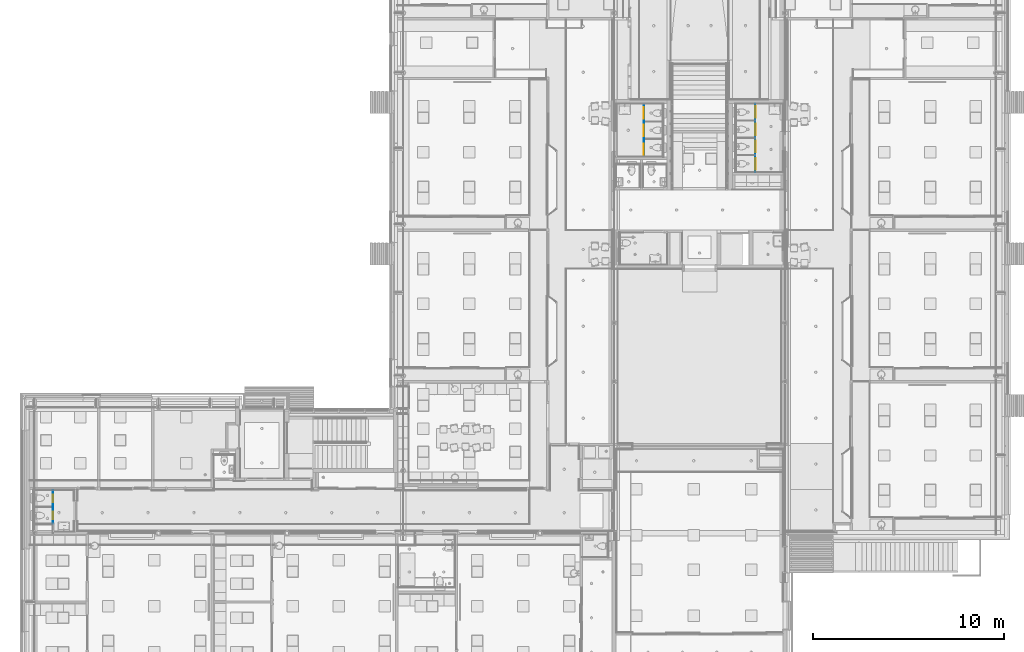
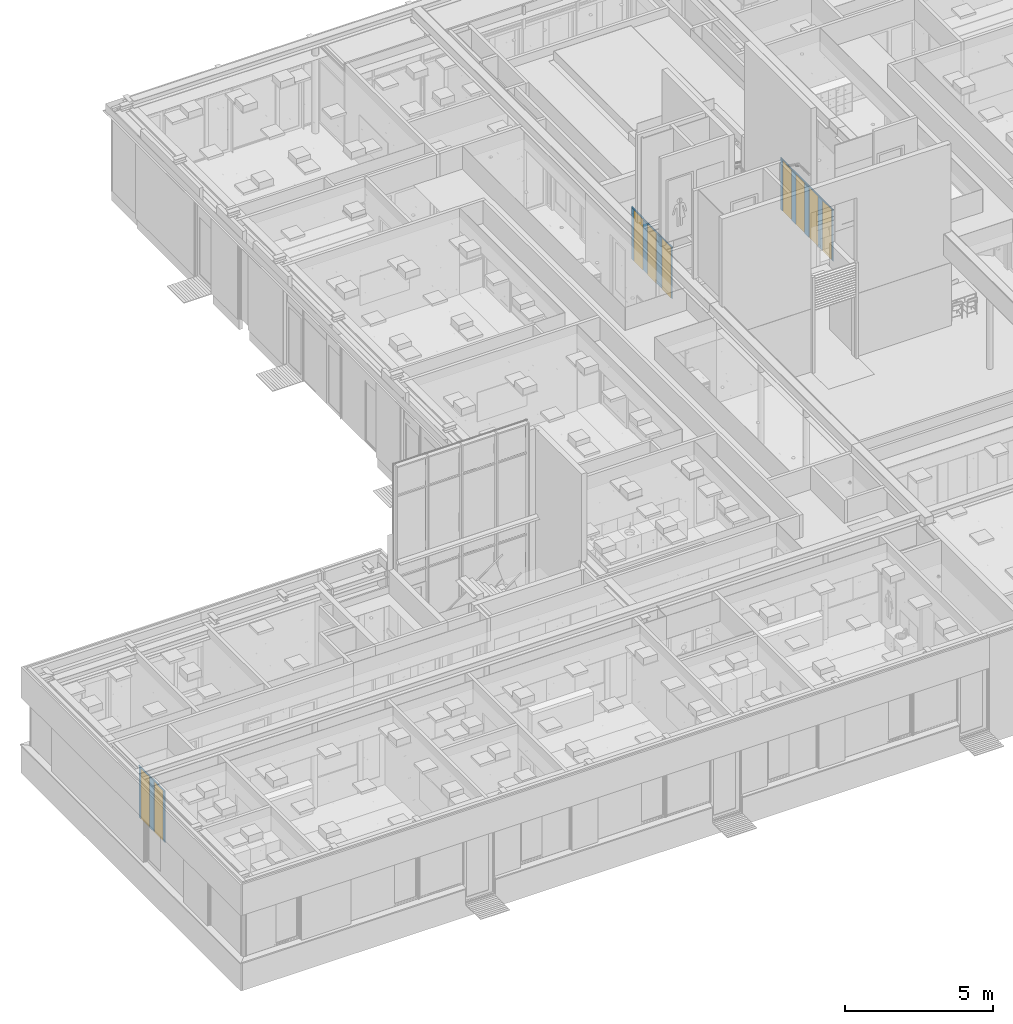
# One storey, part 89 of 347: 9 doors, 6 building element parts, 9 openings, 3 elements without a shape of their own.
"""IFC2X3 building model written with IfcOpenShell, lengths in millimetres."""

from ifc_helpers import new_model, entity, si_unit, converted_unit, derived_unit, money_unit, direction, frame, origin_with_axes, place, context, subcontext, project, spatial, faceted_brep, source, transform, mapped, material, type_object, type_shapes, element, fill, aggregate, save


model = new_model("IFC2X3")

# Units and contexts
model_context = context("Model", 3, precision=0.01, world=origin_with_axes(), true_north=direction((0.0, 1.0)))
plan_context = context("Plan", 3, precision=0.01, world=origin_with_axes(), true_north=direction((0.0, 1.0)))
body_context = subcontext(model_context, "Body", "Model", "MODEL_VIEW")
ifc_project = project(units=[si_unit("LENGTHUNIT", "METRE", prefix="MILLI"), si_unit("AREAUNIT", "SQUARE_METRE"), si_unit("VOLUMEUNIT", "CUBIC_METRE"), converted_unit("PLANEANGLEUNIT", "DEGREE", entity("IfcPlaneAngleMeasure", 0.0174532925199), si_unit("PLANEANGLEUNIT", "RADIAN"), dimensions=[0, 0, 0, 0, 0, 0, 0]), money_unit("EUR"), converted_unit("TIMEUNIT", "Year", entity("IfcTimeMeasure", 31556926.0), si_unit("TIMEUNIT", "SECOND"), dimensions=[0, 0, 1, 0, 0, 0, 0]), si_unit("MASSUNIT", "GRAM", prefix="KILO"), si_unit("THERMODYNAMICTEMPERATUREUNIT", "DEGREE_CELSIUS"), si_unit("LUMINOUSINTENSITYUNIT", "LUMEN"), si_unit("ENERGYUNIT", "JOULE", prefix="MEGA"), derived_unit("THERMALCONDUCTANCEUNIT", [(si_unit("POWERUNIT", "WATT"), 1), (si_unit("LENGTHUNIT", "METRE"), -1), (si_unit("THERMODYNAMICTEMPERATUREUNIT", "KELVIN"), -1)]), derived_unit("SPECIFICHEATCAPACITYUNIT", [(si_unit("ENERGYUNIT", "JOULE"), 1), (si_unit("MASSUNIT", "GRAM", prefix="KILO"), -1), (si_unit("THERMODYNAMICTEMPERATUREUNIT", "KELVIN"), -1)]), derived_unit("MASSDENSITYUNIT", [(si_unit("MASSUNIT", "GRAM", prefix="KILO"), 1), (si_unit("VOLUMEUNIT", "CUBIC_METRE"), -1)])], contexts=[model_context, plan_context])

# Site, building, storey
site_placement = place(None, origin_with_axes())
site = spatial("IfcSite", under=ifc_project, at=site_placement, Name="Site", CompositionType="ELEMENT")
building_placement = place(site_placement, origin_with_axes())
building = spatial("IfcBuilding", under=site, at=building_placement, Name="Naam gebouw", CompositionType="ELEMENT")
storey_placement = place(building_placement, origin_with_axes())
storey = spatial("IfcBuildingStorey", under=building, at=storey_placement, Name="begane grond", CompositionType="ELEMENT", Elevation=0.0)

# Door
door_style_1 = type_object("IfcDoorStyle", Name="D1 25", ConstructionType="NOTDEFINED", OperationType="SINGLE_SWING_RIGHT", ParameterTakesPrecedence=False, Sizeable=False)
shared_shape_1 = source(origin_with_axes(), body_context, "Body", "Brep", [
    faceted_brep([(300.0, 0.0, 0.0), (300.0, -13.0, 0.0), (-300.0, -13.0, 0.0), (-300.0, 0.0, 0.0), (300.0, 0.0, 2100.0), (300.0, -13.0, 2100.0), (-300.0, -13.0, 2100.0), (-300.0, 0.0, 2100.0)], [[[0, 1, 2, 3]], [[4, 5, 1, 0]], [[1, 5, 6, 2]], [[3, 2, 6, 7]], [[0, 3, 7, 4]], [[7, 6, 5, 4]]]),
])
type_shapes(door_style_1, [shared_shape_1])
wall_1_placement = place(storey_placement, frame((42985.0000873, 34568.9999523, 0.0), z_axis=(0.0, 0.0, 1.0), x_axis=(0.0, -1.0, 0.0)))
opening_1_placement = place(wall_1_placement, frame((1329.0, 0.0, 150.0), z_axis=(0.0, 0.0, 1.0), x_axis=(1.0, 0.0, 0.0)))
door_1_placement = place(opening_1_placement, frame((-300.0, 0.0, 0.0), z_axis=(0.0, 0.0, 1.0), x_axis=(1.0, 0.0, 0.0)))
door_1 = element("IfcDoor", 1, at=door_1_placement, inside=storey, type_object=door_style_1, Name="74_A.", ObjectType="DOOR", OverallHeight=2100.0, OverallWidth=600.0, context=body_context, shape_type="MappedRepresentation", body=[
    mapped(shared_shape_1, transform((300.0, 16.0, 0.0))),
])

opening_2_placement = place(wall_1_placement, frame((2229.0, 0.0, 150.0), z_axis=(0.0, 0.0, 1.0), x_axis=(1.0, 0.0, 0.0)))
door_2_placement = place(opening_2_placement, frame((-300.0, 0.0, 0.0), z_axis=(0.0, 0.0, 1.0), x_axis=(1.0, 0.0, 0.0)))
door_2 = element("IfcDoor", 2, at=door_2_placement, inside=storey, type_object=door_style_1, Name="74_A.", ObjectType="DOOR", OverallHeight=2100.0, OverallWidth=600.0, context=body_context, shape_type="MappedRepresentation", body=[
    mapped(shared_shape_1, transform((300.0, 16.0, 0.0))),
])

opening_4_placement = place(wall_1_placement, frame((3129.0, 0.0, 150.0), z_axis=(0.0, 0.0, 1.0), x_axis=(1.0, 0.0, 0.0)))
door_3_placement = place(opening_4_placement, frame((-300.0, 0.0, 0.0), z_axis=(0.0, 0.0, 1.0), x_axis=(1.0, 0.0, 0.0)))
door_3 = element("IfcDoor", 3, at=door_3_placement, inside=storey, type_object=door_style_1, Name="74_A.", ObjectType="DOOR", OverallHeight=2100.0, OverallWidth=600.0, context=body_context, shape_type="MappedRepresentation", body=[
    mapped(shared_shape_1, transform((300.0, 16.0, 0.0))),
])

wall_2_placement = place(storey_placement, frame((6260.00003006, 12621.0, 0.0), z_axis=(0.0, 0.0, 1.0), x_axis=(0.0, 1.0, 0.0)))
opening_5_placement = place(wall_2_placement, frame((428.999999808, 0.0, 150.0), z_axis=(0.0, 0.0, 1.0), x_axis=(1.0, 0.0, 0.0)))
door_4_placement = place(opening_5_placement, frame((300.0, 0.0, 0.0), z_axis=(0.0, 0.0, 1.0), x_axis=(-1.0, 0.0, 0.0)))
door_4 = element("IfcDoor", 4, at=door_4_placement, inside=storey, type_object=door_style_1, Name="74_A.", ObjectType="DOOR", OverallHeight=2100.0, OverallWidth=600.0, context=body_context, shape_type="MappedRepresentation", body=[
    mapped(shared_shape_1, transform((300.0, 16.0, 0.0))),
])

wall_3_placement = place(storey_placement, frame((37164.9999127, 34568.9999523, 0.0), z_axis=(0.0, 0.0, 1.0), x_axis=(0.0, -1.0, 0.0)))
opening_9_placement = place(wall_3_placement, frame((479.0, 0.0, 150.0), z_axis=(0.0, 0.0, 1.0), x_axis=(1.0, 0.0, 0.0)))
door_5_placement = place(opening_9_placement, frame((300.0, 0.0, 0.0), z_axis=(0.0, 0.0, 1.0), x_axis=(-1.0, 0.0, 0.0)))
door_5 = element("IfcDoor", 5, at=door_5_placement, inside=storey, type_object=door_style_1, Name="74_A.", ObjectType="DOOR", OverallHeight=2100.0, OverallWidth=600.0, context=body_context, shape_type="MappedRepresentation", body=[
    mapped(shared_shape_1, transform((300.0, 16.0, 0.0))),
])

door_style_2 = type_object("IfcDoorStyle", Name="D1 25", ConstructionType="NOTDEFINED", OperationType="SINGLE_SWING_LEFT", ParameterTakesPrecedence=False, Sizeable=False)
shared_shape_2 = source(origin_with_axes(), body_context, "Body", "Brep", [
    faceted_brep([(-300.0, 0.0, 0.0), (300.0, 0.0, 0.0), (300.0, -13.0, 0.0), (-300.0, -13.0, 0.0), (-300.0, 0.0, 2100.0), (300.0, 0.0, 2100.0), (300.0, -13.0, 2100.0), (-300.0, -13.0, 2100.0)], [[[0, 1, 2, 3]], [[0, 4, 5, 1]], [[1, 5, 6, 2]], [[3, 2, 6, 7]], [[4, 0, 3, 7]], [[5, 4, 7, 6]]]),
])
type_shapes(door_style_2, [shared_shape_2])
opening_3_placement = place(wall_1_placement, frame((429.0, 0.0, 150.0), z_axis=(0.0, 0.0, 1.0), x_axis=(1.0, 0.0, 0.0)))
door_6_placement = place(opening_3_placement, frame((-300.0, 0.0, 0.0), z_axis=(0.0, 0.0, 1.0), x_axis=(1.0, 0.0, 0.0)))
door_6 = element("IfcDoor", 6, at=door_6_placement, inside=storey, type_object=door_style_2, Name="74_A.", ObjectType="DOOR", OverallHeight=2100.0, OverallWidth=600.0, context=body_context, shape_type="MappedRepresentation", body=[
    mapped(shared_shape_2, transform((300.0, 16.0, 0.0))),
])

opening_6_placement = place(wall_2_placement, frame((1328.99999981, 0.0, 150.0), z_axis=(0.0, 0.0, 1.0), x_axis=(1.0, 0.0, 0.0)))
door_7_placement = place(opening_6_placement, frame((300.0, 0.0, 0.0), z_axis=(0.0, 0.0, 1.0), x_axis=(-1.0, 0.0, 0.0)))
door_7 = element("IfcDoor", 7, at=door_7_placement, inside=storey, type_object=door_style_2, Name="74_A.", ObjectType="DOOR", OverallHeight=2100.0, OverallWidth=600.0, context=body_context, shape_type="MappedRepresentation", body=[
    mapped(shared_shape_2, transform((300.0, 16.0, 0.0))),
])

opening_7_placement = place(wall_3_placement, frame((1379.0, 0.0, 150.0), z_axis=(0.0, 0.0, 1.0), x_axis=(1.0, 0.0, 0.0)))
door_8_placement = place(opening_7_placement, frame((300.0, 0.0, 0.0), z_axis=(0.0, 0.0, 1.0), x_axis=(-1.0, 0.0, 0.0)))
door_8 = element("IfcDoor", 8, at=door_8_placement, inside=storey, type_object=door_style_2, Name="74_A.", ObjectType="DOOR", OverallHeight=2100.0, OverallWidth=600.0, context=body_context, shape_type="MappedRepresentation", body=[
    mapped(shared_shape_2, transform((300.0, 16.0, 0.0))),
])

opening_8_placement = place(wall_3_placement, frame((2379.0, 0.0, 150.0), z_axis=(0.0, 0.0, 1.0), x_axis=(1.0, 0.0, 0.0)))
door_9_placement = place(opening_8_placement, frame((300.0, 0.0, 0.0), z_axis=(0.0, 0.0, 1.0), x_axis=(-1.0, 0.0, 0.0)))
door_9 = element("IfcDoor", 9, at=door_9_placement, inside=storey, type_object=door_style_2, Name="74_A.", ObjectType="DOOR", OverallHeight=2100.0, OverallWidth=600.0, context=body_context, shape_type="MappedRepresentation", body=[
    mapped(shared_shape_2, transform((300.0, 16.0, 0.0))),
])

# Wall, opening
wall_type = type_object("IfcWallType", Name="74 Kupan wand 20 x 2150", PredefinedType="NOTDEFINED")
wall_1 = element("IfcWall", 10, at=wall_1_placement, inside=storey, type_object=wall_type, Name="22_74 sanitaire wand")
opening_1 = element("IfcOpeningElement", 11, at=opening_1_placement, cuts=wall_1, Name="74_A.", context=body_context, shape_type="Brep", body=[
    faceted_brep([(300.0, -26.4999992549, 2100.0), (300.0, -26.4999992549, 0.0), (300.0, 3.00000000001, 0.0), (300.0, 3.00000000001, 2100.0), (-300.0, -26.4999992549, 2100.0), (-300.0, -26.4999992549, 0.0), (-300.0, 3.00000000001, 0.0), (-300.0, 3.00000000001, 2100.0)], [[[0, 1, 2, 3]], [[0, 4, 5, 1]], [[1, 5, 6, 2]], [[3, 2, 6, 7]], [[4, 0, 3, 7]], [[5, 4, 7, 6]]]),
    faceted_brep([(300.0, 26.4999962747, 0.0), (300.0, 26.4999962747, 2100.0), (300.0, 3.00000000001, 2100.0), (300.0, 3.00000000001, 0.0), (-300.0, 26.4999962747, 0.0), (-300.0, 26.4999962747, 2100.0), (-300.0, 3.00000000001, 2100.0), (-300.0, 3.00000000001, 0.0)], [[[0, 1, 2, 3]], [[0, 4, 5, 1]], [[1, 5, 6, 2]], [[3, 2, 6, 7]], [[4, 0, 3, 7]], [[5, 4, 7, 6]]]),
])

fill(opening_1, door_1)

# Opening
opening_2 = element("IfcOpeningElement", 12, at=opening_2_placement, cuts=wall_1, Name="74_A.", context=body_context, shape_type="Brep", body=[
    faceted_brep([(300.0, -26.4999992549, 2100.0), (300.0, -26.4999992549, 0.0), (300.0, 3.00000000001, 0.0), (300.0, 3.00000000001, 2100.0), (-300.0, -26.4999992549, 2100.0), (-300.0, -26.4999992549, 0.0), (-300.0, 3.00000000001, 0.0), (-300.0, 3.00000000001, 2100.0)], [[[0, 1, 2, 3]], [[0, 4, 5, 1]], [[1, 5, 6, 2]], [[3, 2, 6, 7]], [[4, 0, 3, 7]], [[5, 4, 7, 6]]]),
    faceted_brep([(300.0, 26.4999962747, 0.0), (300.0, 26.4999962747, 2100.0), (300.0, 3.00000000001, 2100.0), (300.0, 3.00000000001, 0.0), (-300.0, 26.4999962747, 0.0), (-300.0, 26.4999962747, 2100.0), (-300.0, 3.00000000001, 2100.0), (-300.0, 3.00000000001, 0.0)], [[[0, 1, 2, 3]], [[0, 4, 5, 1]], [[1, 5, 6, 2]], [[3, 2, 6, 7]], [[4, 0, 3, 7]], [[5, 4, 7, 6]]]),
])

fill(opening_2, door_2)

opening_3 = element("IfcOpeningElement", 13, at=opening_3_placement, cuts=wall_1, Name="74_A.", context=body_context, shape_type="Brep", body=[
    faceted_brep([(-300.0, 3.00000000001, 2100.0), (-300.0, 3.00000000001, 0.0), (-300.0, -26.4999992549, 0.0), (-300.0, -26.4999992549, 2100.0), (300.0, 3.00000000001, 2100.0), (300.0, 3.00000000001, 0.0), (300.0, -26.4999992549, 0.0), (300.0, -26.4999992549, 2100.0)], [[[0, 1, 2, 3]], [[0, 4, 5, 1]], [[1, 5, 6, 2]], [[3, 2, 6, 7]], [[4, 0, 3, 7]], [[5, 4, 7, 6]]]),
    faceted_brep([(-300.0, 3.00000000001, 0.0), (-300.0, 3.00000000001, 2100.0), (-300.0, 26.4999962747, 2100.0), (-300.0, 26.4999962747, 0.0), (300.0, 3.00000000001, 0.0), (300.0, 3.00000000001, 2100.0), (300.0, 26.4999962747, 2100.0), (300.0, 26.4999962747, 0.0)], [[[0, 1, 2, 3]], [[0, 4, 5, 1]], [[1, 5, 6, 2]], [[3, 2, 6, 7]], [[4, 0, 3, 7]], [[5, 4, 7, 6]]]),
])

fill(opening_3, door_6)

opening_4 = element("IfcOpeningElement", 14, at=opening_4_placement, cuts=wall_1, Name="74_A.", context=body_context, shape_type="Brep", body=[
    faceted_brep([(300.0, -26.4999992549, 2100.0), (300.0, -26.4999992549, 0.0), (300.0, 3.00000000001, 0.0), (300.0, 3.00000000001, 2100.0), (-300.0, -26.4999992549, 2100.0), (-300.0, -26.4999992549, 0.0), (-300.0, 3.00000000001, 0.0), (-300.0, 3.00000000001, 2100.0)], [[[0, 1, 2, 3]], [[0, 4, 5, 1]], [[1, 5, 6, 2]], [[3, 2, 6, 7]], [[4, 0, 3, 7]], [[5, 4, 7, 6]]]),
    faceted_brep([(300.0, 26.4999962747, 0.0), (300.0, 26.4999962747, 2100.0), (300.0, 3.00000000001, 2100.0), (300.0, 3.00000000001, 0.0), (-300.0, 26.4999962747, 0.0), (-300.0, 26.4999962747, 2100.0), (-300.0, 3.00000000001, 2100.0), (-300.0, 3.00000000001, 0.0)], [[[0, 1, 2, 3]], [[0, 4, 5, 1]], [[1, 5, 6, 2]], [[3, 2, 6, 7]], [[4, 0, 3, 7]], [[5, 4, 7, 6]]]),
])

fill(opening_4, door_3)

# Building element part
ifc_material_1 = material(Name="Kunststof Kupan")
building_element_part_1_placement = place(wall_1_placement, origin_with_axes())
building_element_part_1 = element("IfcBuildingElementPart", 15, at=building_element_part_1_placement, material=ifc_material_1, Name="Kunststof Kupan", context=body_context, shape_type="Brep", body=[
    faceted_brep([(3429.0, 6.49999627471, 150.0), (3429.0, 6.49999627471, 2250.0), (3559.00002435, 6.49999627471, 2249.99999255), (3559.00002435, 6.49999627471, 150.0), (3429.0, 3.00000000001, 2250.0), (3429.0, 3.00000000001, 150.0), (3429.0, -6.49999925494, 150.0), (3429.0, -6.49999925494, 2250.0), (3559.00002435, -6.49999925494, 2249.99999255), (3559.00002435, -6.49999925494, 150.0)], [[[0, 1, 2, 3]], [[4, 1, 0, 5, 6, 7]], [[1, 4, 7, 8, 2]], [[8, 9, 3, 2]], [[5, 0, 3, 9, 6]], [[6, 9, 8, 7]]]),
    faceted_brep([(129.0, 6.49999627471, 2250.0), (0.0, 6.49999627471, 2249.99999255), (0.0, -6.49999925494, 2249.99999255), (129.0, -6.49999925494, 2250.0), (129.0, 6.49999627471, 150.0), (0.0, 6.49999627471, 150.0), (0.0, -6.49999925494, 150.0), (129.0, -6.49999925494, 150.0)], [[[0, 1, 2, 3]], [[0, 4, 5, 1]], [[6, 2, 1, 5]], [[3, 2, 6, 7]], [[4, 0, 3, 7]], [[4, 7, 6, 5]]]),
    faceted_brep([(729.0, 6.49999627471, 150.0), (729.0, 6.49999627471, 2250.0), (1029.0, 6.49999627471, 2250.0), (1029.0, 6.49999627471, 150.0), (729.0, -6.49999925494, 150.0), (729.0, -6.49999925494, 2250.0), (1029.0, -6.49999925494, 2250.0), (1029.0, -6.49999925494, 150.0)], [[[0, 1, 2, 3]], [[1, 0, 4, 5]], [[1, 5, 6, 2]], [[6, 7, 3, 2]], [[0, 3, 7, 4]], [[4, 7, 6, 5]]]),
    faceted_brep([(1929.0, 6.49999627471, 2250.0), (1629.0, 6.49999627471, 2250.0), (1629.0, -6.49999925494, 2250.0), (1929.0, -6.49999925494, 2250.0), (1929.0, 6.49999627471, 150.0), (1629.0, 6.49999627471, 150.0), (1629.0, -6.49999925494, 150.0), (1929.0, -6.49999925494, 150.0)], [[[0, 1, 2, 3]], [[0, 4, 5, 1]], [[6, 2, 1, 5]], [[3, 2, 6, 7]], [[4, 0, 3, 7]], [[4, 7, 6, 5]]]),
    faceted_brep([(2829.0, 3.00000000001, 2250.0), (2829.0, 6.49999627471, 2250.0), (2529.0, 6.49999627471, 2250.0), (2529.0, -6.49999925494, 2250.0), (2829.0, -6.49999925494, 2250.0), (2829.0, 3.00000000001, 150.0), (2829.0, 6.49999627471, 150.0), (2829.0, -6.49999925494, 150.0), (2529.0, 6.49999627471, 150.0), (2529.0, -6.49999925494, 150.0)], [[[0, 1, 2, 3, 4]], [[5, 6, 1, 0, 4, 7]], [[1, 6, 8, 2]], [[9, 3, 2, 8]], [[4, 3, 9, 7]], [[6, 5, 7, 9, 8]]]),
])

ifc_material_2 = material(Name="Metaal - Aluminium")
building_element_part_2_placement = place(wall_1_placement, origin_with_axes())
building_element_part_2 = element("IfcBuildingElementPart", 16, at=building_element_part_2_placement, material=ifc_material_2, Name="Metaal - Aluminium", context=body_context, shape_type="Brep", body=[
    faceted_brep([(3569.00001838, -10.0, 2300.0), (3569.00001838, 10.0, 2300.0), (0.0, 10.0, 2300.0), (0.0, -10.0, 2300.0), (3569.00001838, 10.0, 2250.0), (3569.00001838, -10.0, 2250.0), (3569.00001838, -6.49999925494, 2249.99999255), (3569.00001838, 6.49999627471, 2249.99999255), (0.0, 10.0, 2250.0), (0.0, 6.49999627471, 2249.99999255), (0.0, -6.49999925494, 2249.99999255), (0.0, -10.0, 2250.0)], [[[0, 1, 2, 3]], [[4, 1, 0, 5, 6, 7]], [[1, 4, 8, 2]], [[3, 2, 8, 9, 10, 11]], [[5, 0, 3, 11]], [[6, 5, 11, 10]], [[7, 6, 10, 9]], [[4, 7, 9, 8]]]),
])

aggregate(wall_1, [building_element_part_1, building_element_part_2])

# Wall, opening
wall_2 = element("IfcWall", 17, at=wall_2_placement, inside=storey, type_object=wall_type, Name="22_74 sanitaire wand")
opening_5 = element("IfcOpeningElement", 18, at=opening_5_placement, cuts=wall_2, Name="74_A.", context=body_context, shape_type="Brep", body=[
    faceted_brep([(-300.0, 26.4999992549, 2100.0), (-300.0, 26.4999992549, 0.0), (-300.0, -3.0, 0.0), (-300.0, -3.0, 2100.0), (300.0, 26.4999992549, 2100.0), (300.0, 26.4999992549, 0.0), (300.0, -3.0, 0.0), (300.0, -3.0, 2100.0)], [[[0, 1, 2, 3]], [[0, 4, 5, 1]], [[1, 5, 6, 2]], [[3, 2, 6, 7]], [[4, 0, 3, 7]], [[5, 4, 7, 6]]]),
    faceted_brep([(-300.0, -26.4999962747, 0.0), (-300.0, -26.4999962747, 2100.0), (-300.0, -3.0, 2100.0), (-300.0, -3.0, 0.0), (300.0, -26.4999962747, 0.0), (300.0, -26.4999962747, 2100.0), (300.0, -3.0, 2100.0), (300.0, -3.0, 0.0)], [[[0, 1, 2, 3]], [[0, 4, 5, 1]], [[1, 5, 6, 2]], [[3, 2, 6, 7]], [[4, 0, 3, 7]], [[5, 4, 7, 6]]]),
])

fill(opening_5, door_4)

# Opening
opening_6 = element("IfcOpeningElement", 19, at=opening_6_placement, cuts=wall_2, Name="74_A.", context=body_context, shape_type="Brep", body=[
    faceted_brep([(300.0, -3.0, 2100.0), (300.0, -3.0, 0.0), (300.0, 26.4999992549, 0.0), (300.0, 26.4999992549, 2100.0), (-300.0, -3.0, 2100.0), (-300.0, -3.0, 0.0), (-300.0, 26.4999992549, 0.0), (-300.0, 26.4999992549, 2100.0)], [[[0, 1, 2, 3]], [[0, 4, 5, 1]], [[1, 5, 6, 2]], [[3, 2, 6, 7]], [[4, 0, 3, 7]], [[5, 4, 7, 6]]]),
    faceted_brep([(300.0, -3.0, 0.0), (300.0, -3.0, 2100.0), (300.0, -26.4999962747, 2100.0), (300.0, -26.4999962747, 0.0), (-300.0, -3.0, 0.0), (-300.0, -3.0, 2100.0), (-300.0, -26.4999962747, 2100.0), (-300.0, -26.4999962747, 0.0)], [[[0, 1, 2, 3]], [[0, 4, 5, 1]], [[1, 5, 6, 2]], [[3, 2, 6, 7]], [[4, 0, 3, 7]], [[5, 4, 7, 6]]]),
])

fill(opening_6, door_7)

# Building element part
building_element_part_3_placement = place(wall_2_placement, origin_with_axes())
building_element_part_3 = element("IfcBuildingElementPart", 20, at=building_element_part_3_placement, material=ifc_material_1, Name="Kunststof Kupan", context=body_context, shape_type="Brep", body=[
    faceted_brep([(128.999999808, -6.49999627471, 150.0), (128.999999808, -6.49999627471, 2250.0), (0.0, -6.49999627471, 2249.99999255), (0.0, -6.49999627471, 150.0), (128.999999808, 6.49999925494, 150.0), (128.999999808, 6.49999925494, 2250.0), (0.0, 6.49999925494, 2249.99999255), (0.0, 6.49999925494, 150.0)], [[[0, 1, 2, 3]], [[1, 0, 4, 5]], [[1, 5, 6, 2]], [[3, 2, 6, 7]], [[0, 3, 7, 4]], [[4, 7, 6, 5]]]),
    faceted_brep([(1028.99999981, -6.49999627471, 150.0), (1028.99999981, -6.49999627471, 2250.0), (728.999999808, -6.49999627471, 2250.0), (728.999999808, -6.49999627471, 150.0), (1028.99999981, -3.0, 2250.0), (1028.99999981, -3.0, 150.0), (1028.99999981, 6.49999925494, 150.0), (1028.99999981, 6.49999925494, 2250.0), (728.999999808, 6.49999925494, 2250.0), (728.999999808, 6.49999925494, 150.0)], [[[0, 1, 2, 3]], [[4, 1, 0, 5, 6, 7]], [[1, 4, 7, 8, 2]], [[8, 9, 3, 2]], [[5, 0, 3, 9, 6]], [[6, 9, 8, 7]]]),
    faceted_brep([(1628.99999981, -3.0, 2250.0), (1628.99999981, -6.49999627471, 2250.0), (1758.0, -6.49999627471, 2249.99999255), (1758.0, 6.49999925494, 2249.99999255), (1628.99999981, 6.49999925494, 2250.0), (1628.99999981, -3.0, 150.0), (1628.99999981, -6.49999627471, 150.0), (1628.99999981, 6.49999925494, 150.0), (1758.0, -6.49999627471, 150.0), (1758.0, 6.49999925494, 150.0)], [[[0, 1, 2, 3, 4]], [[5, 6, 1, 0, 4, 7]], [[1, 6, 8, 2]], [[3, 2, 8, 9]], [[4, 3, 9, 7]], [[6, 5, 7, 9, 8]]]),
])

building_element_part_4_placement = place(wall_2_placement, origin_with_axes())
building_element_part_4 = element("IfcBuildingElementPart", 21, at=building_element_part_4_placement, material=ifc_material_2, Name="Metaal - Aluminium", context=body_context, shape_type="Brep", body=[
    faceted_brep([(1758.0, 10.0, 2300.0), (1758.0, 10.0, 2250.0), (0.0, 10.0, 2250.0), (0.0, 10.0, 2300.0), (1758.0, -10.0, 2300.0), (1758.0, -10.0, 2250.0), (1758.0, -6.49999627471, 2249.99999255), (1758.0, 6.49999925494, 2249.99999255), (0.0, 6.49999925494, 2249.99999255), (0.0, -6.49999627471, 2249.99999255), (0.0, -10.0, 2250.0), (0.0, -10.0, 2300.0)], [[[0, 1, 2, 3]], [[0, 4, 5, 6, 7, 1]], [[1, 7, 8, 2]], [[3, 2, 8, 9, 10, 11]], [[4, 0, 3, 11]], [[5, 4, 11, 10]], [[6, 5, 10, 9]], [[7, 6, 9, 8]]]),
])

aggregate(wall_2, [building_element_part_3, building_element_part_4])

# Wall, opening
wall_3 = element("IfcWall", 22, at=wall_3_placement, inside=storey, type_object=wall_type, Name="22_74 sanitaire wand")
opening_7 = element("IfcOpeningElement", 23, at=opening_7_placement, cuts=wall_3, Name="74_A.", context=body_context, shape_type="Brep", body=[
    faceted_brep([(300.0, -3.00000000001, 2100.0), (300.0, -3.00000000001, 0.0), (300.0, 26.4999992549, 0.0), (300.0, 26.4999992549, 2100.0), (-300.0, -3.00000000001, 2100.0), (-300.0, -3.00000000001, 0.0), (-300.0, 26.4999992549, 0.0), (-300.0, 26.4999992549, 2100.0)], [[[0, 1, 2, 3]], [[0, 4, 5, 1]], [[1, 5, 6, 2]], [[3, 2, 6, 7]], [[4, 0, 3, 7]], [[5, 4, 7, 6]]]),
    faceted_brep([(300.0, -3.00000000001, 0.0), (300.0, -3.00000000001, 2100.0), (300.0, -26.4999962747, 2100.0), (300.0, -26.4999962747, 0.0), (-300.0, -3.00000000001, 0.0), (-300.0, -3.00000000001, 2100.0), (-300.0, -26.4999962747, 2100.0), (-300.0, -26.4999962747, 0.0)], [[[0, 1, 2, 3]], [[0, 4, 5, 1]], [[1, 5, 6, 2]], [[3, 2, 6, 7]], [[4, 0, 3, 7]], [[5, 4, 7, 6]]]),
])

fill(opening_7, door_8)

# Opening
opening_8 = element("IfcOpeningElement", 24, at=opening_8_placement, cuts=wall_3, Name="74_A.", context=body_context, shape_type="Brep", body=[
    faceted_brep([(300.0, -3.00000000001, 2100.0), (300.0, -3.00000000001, 0.0), (300.0, 26.4999992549, 0.0), (300.0, 26.4999992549, 2100.0), (-300.0, -3.00000000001, 2100.0), (-300.0, -3.00000000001, 0.0), (-300.0, 26.4999992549, 0.0), (-300.0, 26.4999992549, 2100.0)], [[[0, 1, 2, 3]], [[0, 4, 5, 1]], [[1, 5, 6, 2]], [[3, 2, 6, 7]], [[4, 0, 3, 7]], [[5, 4, 7, 6]]]),
    faceted_brep([(300.0, -3.00000000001, 0.0), (300.0, -3.00000000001, 2100.0), (300.0, -26.4999962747, 2100.0), (300.0, -26.4999962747, 0.0), (-300.0, -3.00000000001, 0.0), (-300.0, -3.00000000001, 2100.0), (-300.0, -26.4999962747, 2100.0), (-300.0, -26.4999962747, 0.0)], [[[0, 1, 2, 3]], [[0, 4, 5, 1]], [[1, 5, 6, 2]], [[3, 2, 6, 7]], [[4, 0, 3, 7]], [[5, 4, 7, 6]]]),
])

fill(opening_8, door_9)

opening_9 = element("IfcOpeningElement", 25, at=opening_9_placement, cuts=wall_3, Name="74_A.", context=body_context, shape_type="Brep", body=[
    faceted_brep([(-300.0, 26.4999992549, 2100.0), (-300.0, 26.4999992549, 0.0), (-300.0, -3.00000000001, 0.0), (-300.0, -3.00000000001, 2100.0), (300.0, 26.4999992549, 2100.0), (300.0, 26.4999992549, 0.0), (300.0, -3.00000000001, 0.0), (300.0, -3.00000000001, 2100.0)], [[[0, 1, 2, 3]], [[0, 4, 5, 1]], [[1, 5, 6, 2]], [[3, 2, 6, 7]], [[4, 0, 3, 7]], [[5, 4, 7, 6]]]),
    faceted_brep([(-300.0, -26.4999962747, 0.0), (-300.0, -26.4999962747, 2100.0), (-300.0, -3.00000000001, 2100.0), (-300.0, -3.00000000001, 0.0), (300.0, -26.4999962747, 0.0), (300.0, -26.4999962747, 2100.0), (300.0, -3.00000000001, 2100.0), (300.0, -3.00000000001, 0.0)], [[[0, 1, 2, 3]], [[0, 4, 5, 1]], [[1, 5, 6, 2]], [[3, 2, 6, 7]], [[4, 0, 3, 7]], [[5, 4, 7, 6]]]),
])

fill(opening_9, door_5)

# Building element part
building_element_part_5_placement = place(wall_3_placement, origin_with_axes())
building_element_part_5 = element("IfcBuildingElementPart", 26, at=building_element_part_5_placement, material=ifc_material_1, Name="Kunststof Kupan", context=body_context, shape_type="Brep", body=[
    faceted_brep([(779.0, -3.00000000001, 150.0), (779.0, -6.49999627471, 150.0), (779.0, -6.49999627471, 2250.0), (779.0, -3.00000000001, 2250.0), (779.0, 6.49999925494, 2250.0), (779.0, 6.49999925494, 150.0), (1079.0, 6.49999925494, 150.0), (1079.0, -6.49999627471, 150.0), (1079.0, -6.49999627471, 2250.0), (1079.0, 6.49999925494, 2250.0)], [[[0, 1, 2, 3, 4, 5]], [[1, 0, 5, 6, 7]], [[2, 1, 7, 8]], [[3, 2, 8, 9, 4]], [[4, 9, 6, 5]], [[6, 9, 8, 7]]]),
    faceted_brep([(2079.0, -6.49999627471, 2250.0), (2079.0, 6.49999925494, 2250.0), (1679.0, 6.49999925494, 2250.0), (1679.0, -6.49999627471, 2250.0), (2079.0, -6.49999627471, 150.0), (2079.0, 6.49999925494, 150.0), (1679.0, 6.49999925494, 150.0), (1679.0, -6.49999627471, 150.0)], [[[0, 1, 2, 3]], [[0, 4, 5, 1]], [[5, 6, 2, 1]], [[2, 6, 7, 3]], [[4, 0, 3, 7]], [[4, 7, 6, 5]]]),
    faceted_brep([(2679.0, -6.49999627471, 150.0), (2679.0, -6.49999627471, 2250.0), (2679.0, 6.49999925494, 2250.0), (2679.0, 6.49999925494, 150.0), (2758.0, -6.49999627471, 150.0), (2758.0, -6.49999627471, 2249.99999255), (2758.0, 6.49999925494, 2249.99999255), (2758.0, 6.49999925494, 150.0)], [[[0, 1, 2, 3]], [[1, 0, 4, 5]], [[1, 5, 6, 2]], [[2, 6, 7, 3]], [[0, 3, 7, 4]], [[6, 5, 4, 7]]]),
    faceted_brep([(179.0, -6.49999627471, 2250.0), (179.0, -3.00000000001, 2250.0), (179.0, 6.49999925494, 2250.0), (0.0, 6.49999925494, 2249.99999255), (0.0, -6.49999627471, 2249.99999255), (179.0, -6.49999627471, 150.0), (179.0, -3.00000000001, 150.0), (179.0, 6.49999925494, 150.0), (0.0, 6.49999925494, 150.0), (0.0, -6.49999627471, 150.0)], [[[0, 1, 2, 3, 4]], [[1, 0, 5, 6, 7, 2]], [[7, 8, 3, 2]], [[3, 8, 9, 4]], [[5, 0, 4, 9]], [[6, 5, 9, 8, 7]]]),
])

building_element_part_6_placement = place(wall_3_placement, origin_with_axes())
building_element_part_6 = element("IfcBuildingElementPart", 27, at=building_element_part_6_placement, material=ifc_material_2, Name="Metaal - Aluminium", context=body_context, shape_type="Brep", body=[
    faceted_brep([(2758.0, 10.0, 2300.0), (2758.0, 10.0, 2250.0), (0.0, 10.0, 2250.0), (0.0, 10.0, 2300.0), (2758.0, -10.0, 2300.0), (2758.0, -10.0, 2250.0), (2758.0, -6.49999627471, 2249.99999255), (2758.0, 6.49999925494, 2249.99999255), (0.0, 6.49999925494, 2249.99999255), (0.0, -6.49999627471, 2249.99999255), (0.0, -10.0, 2250.0), (0.0, -10.0, 2300.0)], [[[0, 1, 2, 3]], [[0, 4, 5, 6, 7, 1]], [[1, 7, 8, 2]], [[3, 2, 8, 9, 10, 11]], [[4, 0, 3, 11]], [[5, 4, 11, 10]], [[6, 5, 10, 9]], [[7, 6, 9, 8]]]),
])

aggregate(wall_3, [building_element_part_5, building_element_part_6])

save(model, "model.ifc")
